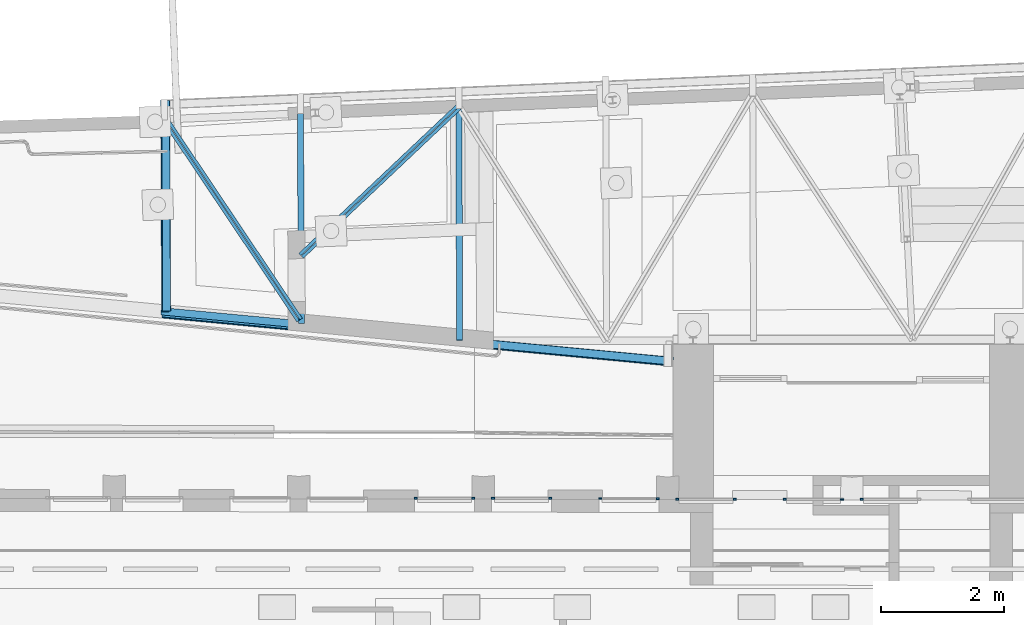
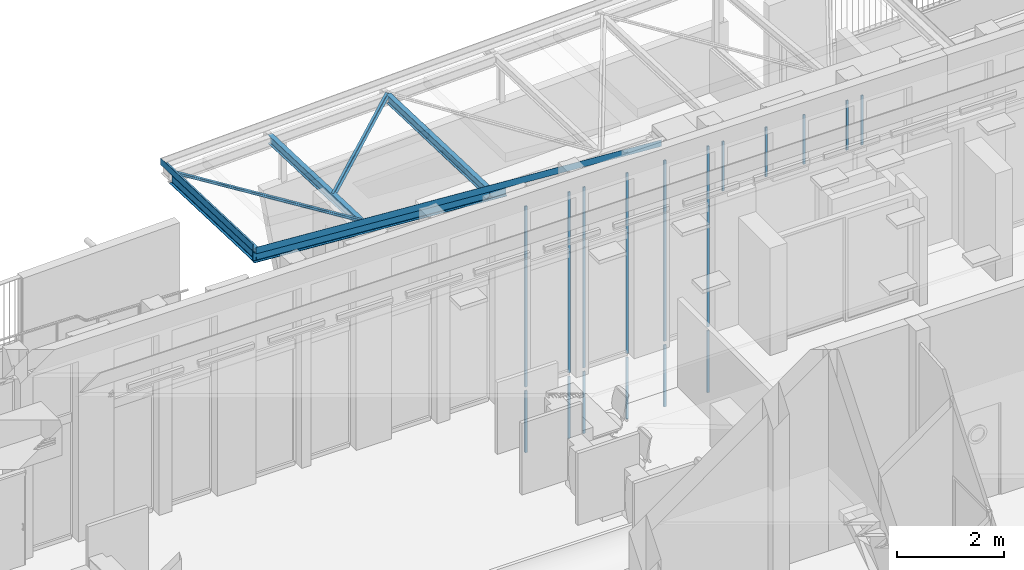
# One storey, part 9 of 128: 23 members, 8 beams, 9 elements without a shape of their own.
"""IFC2X3 building model written with IfcOpenShell, lengths in metres."""

from ifc_helpers import new_model, entity, si_unit, converted_unit, derived_unit, direction, frame, frame_2d, origin, origin_2d_with_axis, place, context, subcontext, project, spatial, polyline, circle_curve, parameter, trimmed, segment, composite_curve, rectangle, i_section, outline, extrude, source, transform, mapped, material, type_object, type_shapes, element, aggregate, save


model = new_model("IFC2X3")

# Units and contexts
model_context = context("Model", 3, precision=1e-05, world=origin(), true_north=direction((6.123031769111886e-17, 1.0)))
body_context = subcontext(model_context, "Body", "Model", "MODEL_VIEW")
ifc_project = project(units=[si_unit("LENGTHUNIT", "METRE"), si_unit("AREAUNIT", "SQUARE_METRE"), converted_unit("PLANEANGLEUNIT", "DEGREE", entity("IfcPlaneAngleMeasure", 0.017453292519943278), si_unit("PLANEANGLEUNIT", "RADIAN"), dimensions=[0, 0, 0, 0, 0, 0, 0]), derived_unit("THERMALTRANSMITTANCEUNIT", [(si_unit("MASSUNIT", "GRAM", prefix="KILO"), 1), (si_unit("THERMODYNAMICTEMPERATUREUNIT", "KELVIN"), -1), (si_unit("TIMEUNIT", "SECOND"), -3)])], contexts=[model_context])

# Site, building, storey
site_placement = place(None, origin())
site = spatial("IfcSite", under=ifc_project, at=site_placement, Name="Default", CompositionType="ELEMENT")
building_placement = place(site_placement, origin())
building = spatial("IfcBuilding", under=site, at=building_placement, CompositionType="ELEMENT")
storey_placement = place(building_placement, origin())
storey = spatial("IfcBuildingStorey", under=building, at=storey_placement, Name="00_RDC CAF", CompositionType="ELEMENT", Elevation=2.4982504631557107e-13)

# Curtain wall, member
curtain_wall_type_1 = type_object("IfcCurtainWallType", Name="Mur-rideau:FRi.Ext.30mm RDC", PredefinedType="NOTDEFINED")
curtain_wall_1_placement = place(storey_placement, origin())
curtain_wall_1 = element("IfcCurtainWall", 1, at=curtain_wall_1_placement, inside=storey, type_object=curtain_wall_type_1, Name="Mur-rideau:FRi.Ext.30mm RDC", ObjectType="Mur-rideau:FRi.Ext.30mm RDC")
ifc_material_1 = material(Name="ARC - M.Ex - Blanc")
member_type_1 = type_object("IfcMemberType", Name="Meneau rectangulaire:F.Ri.M_Ext_Rectangulaire_50x30mm", PredefinedType="MULLION", material=ifc_material_1)
shared_shape_1 = source(origin(), body_context, "Body", "SweptSolid", [
    extrude(rectangle(XDim=0.05, YDim=0.03, at=origin_2d_with_axis()), frame((-0.025, 0.0, -2.7689999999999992), z_axis=(0.0, 0.0, 1.0), x_axis=(-1.0, 0.0, 0.0)), (0.0, 0.0, 1.0), 2.7689999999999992),
])
type_shapes(member_type_1, [shared_shape_1])
member_1_placement = place(curtain_wall_1_placement, frame((21.612390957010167, 144.1601841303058, 0.0), z_axis=(0.0, 0.0, -1.0), x_axis=(1.0, 0.0, 0.0)))
member_1 = element("IfcMember", 2, at=member_1_placement, type_object=member_type_1, material=ifc_material_1, Name="Meneau rectangulaire:F.Ri.M_Ext_Rectangulaire_50x30mm", ObjectType="Meneau rectangulaire:F.Ri.M_Ext_Rectangulaire_50x30mm", context=body_context, shape_type="MappedRepresentation", body=[
    mapped(shared_shape_1, transform((0.0, 0.0, 0.0), scale=1.0)),
])

curtain_wall_2_placement = place(storey_placement, origin())
curtain_wall_2 = element("IfcCurtainWall", 3, at=curtain_wall_2_placement, inside=storey, type_object=curtain_wall_type_1, Name="Mur-rideau:FRi.Ext.30mm RDC", ObjectType="Mur-rideau:FRi.Ext.30mm RDC")
member_2_placement = place(curtain_wall_2_placement, frame((22.86601235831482, 144.1582125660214, 0.0), z_axis=(0.0, 0.0, -1.0), x_axis=(1.0, 0.0, 0.0)))
member_2 = element("IfcMember", 4, at=member_2_placement, type_object=member_type_1, material=ifc_material_1, Name="Meneau rectangulaire:F.Ri.M_Ext_Rectangulaire_50x30mm", ObjectType="Meneau rectangulaire:F.Ri.M_Ext_Rectangulaire_50x30mm", context=body_context, shape_type="MappedRepresentation", body=[
    mapped(shared_shape_1, transform((0.0, 0.0, 0.0), scale=1.0)),
])

curtain_wall_3_placement = place(storey_placement, origin())
curtain_wall_3 = element("IfcCurtainWall", 5, at=curtain_wall_3_placement, inside=storey, type_object=curtain_wall_type_1, Name="Mur-rideau:FRi.Ext.30mm RDC", ObjectType="Mur-rideau:FRi.Ext.30mm RDC")
member_3_placement = place(curtain_wall_3_placement, frame((24.6123843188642, 144.1554660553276, 0.0), z_axis=(0.0, 0.0, -1.0), x_axis=(1.0, 0.0, 0.0)))
member_3 = element("IfcMember", 6, at=member_3_placement, type_object=member_type_1, material=ifc_material_1, Name="Meneau rectangulaire:F.Ri.M_Ext_Rectangulaire_50x30mm", ObjectType="Meneau rectangulaire:F.Ri.M_Ext_Rectangulaire_50x30mm", context=body_context, shape_type="MappedRepresentation", body=[
    mapped(shared_shape_1, transform((0.0, 0.0, 0.0), scale=1.0)),
])

# Member
member_type_2 = type_object("IfcMemberType", Name="Meneau rectangulaire:F.Ri.M_Ext_Rectangulaire_50x30mm", PredefinedType="MULLION", material=ifc_material_1)
shared_shape_2 = source(origin(), body_context, "Body", "SweptSolid", [
    extrude(rectangle(XDim=0.05, YDim=0.03, at=origin_2d_with_axis()), frame((-0.025, 0.0, -1.3589999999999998), z_axis=(0.0, 0.0, 1.0), x_axis=(-1.0, 0.0, 0.0)), (0.0, 0.0, 1.0), 1.3589999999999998),
])
type_shapes(member_type_2, [shared_shape_2])
member_4_placement = place(curtain_wall_1_placement, frame((21.612390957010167, 144.1601841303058, 2.7689999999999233), z_axis=(0.0, 0.0, -1.0), x_axis=(1.0, 0.0, 0.0)))
member_4 = element("IfcMember", 7, at=member_4_placement, type_object=member_type_2, material=ifc_material_1, Name="Meneau rectangulaire:F.Ri.M_Ext_Rectangulaire_50x30mm", ObjectType="Meneau rectangulaire:F.Ri.M_Ext_Rectangulaire_50x30mm", context=body_context, shape_type="MappedRepresentation", body=[
    mapped(shared_shape_2, transform((0.0, 0.0, 0.0), scale=1.0)),
])

member_5_placement = place(curtain_wall_2_placement, frame((22.86601235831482, 144.1582125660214, 2.7689999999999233), z_axis=(0.0, 0.0, -1.0), x_axis=(1.0, 0.0, 0.0)))
member_5 = element("IfcMember", 8, at=member_5_placement, type_object=member_type_2, material=ifc_material_1, Name="Meneau rectangulaire:F.Ri.M_Ext_Rectangulaire_50x30mm", ObjectType="Meneau rectangulaire:F.Ri.M_Ext_Rectangulaire_50x30mm", context=body_context, shape_type="MappedRepresentation", body=[
    mapped(shared_shape_2, transform((0.0, 0.0, 0.0), scale=1.0)),
])

member_6_placement = place(curtain_wall_3_placement, frame((24.6123843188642, 144.1554660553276, 2.7689999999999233), z_axis=(0.0, 0.0, -1.0), x_axis=(1.0, 0.0, 0.0)))
member_6 = element("IfcMember", 9, at=member_6_placement, type_object=member_type_2, material=ifc_material_1, Name="Meneau rectangulaire:F.Ri.M_Ext_Rectangulaire_50x30mm", ObjectType="Meneau rectangulaire:F.Ri.M_Ext_Rectangulaire_50x30mm", context=body_context, shape_type="MappedRepresentation", body=[
    mapped(shared_shape_2, transform((0.0, 0.0, 0.0), scale=1.0)),
])

member_type_3 = type_object("IfcMemberType", Name="Meneau rectangulaire:F.Ri.M_Ext_Rectangulaire_50x30mm", PredefinedType="MULLION", material=ifc_material_1)
shared_shape_3 = source(origin(), body_context, "Body", "SweptSolid", [
    extrude(rectangle(XDim=0.05, YDim=0.03, at=origin_2d_with_axis()), frame((-0.025, 0.0, -1.3589999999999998), z_axis=(0.0, 0.0, 1.0), x_axis=(-1.0, 0.0, 0.0)), (0.0, 0.0, 1.0), 1.3589999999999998),
])
type_shapes(member_type_3, [shared_shape_3])
member_7_placement = place(curtain_wall_1_placement, frame((20.632392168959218, 144.16172536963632, 4.127999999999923), z_axis=(0.0, 0.0, 1.0), x_axis=(-1.0, 0.0, 0.0)))
member_7 = element("IfcMember", 10, at=member_7_placement, type_object=member_type_3, material=ifc_material_1, Name="Meneau rectangulaire:F.Ri.M_Ext_Rectangulaire_50x30mm", ObjectType="Meneau rectangulaire:F.Ri.M_Ext_Rectangulaire_50x30mm", context=body_context, shape_type="MappedRepresentation", body=[
    mapped(shared_shape_3, transform((0.0, 0.0, 0.0), scale=1.0)),
])

member_8_placement = place(curtain_wall_2_placement, frame((21.88601357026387, 144.15975380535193, 4.127999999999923), z_axis=(0.0, 0.0, 1.0), x_axis=(-1.0, 0.0, 0.0)))
member_8 = element("IfcMember", 11, at=member_8_placement, type_object=member_type_3, material=ifc_material_1, Name="Meneau rectangulaire:F.Ri.M_Ext_Rectangulaire_50x30mm", ObjectType="Meneau rectangulaire:F.Ri.M_Ext_Rectangulaire_50x30mm", context=body_context, shape_type="MappedRepresentation", body=[
    mapped(shared_shape_3, transform((0.0, 0.0, 0.0), scale=1.0)),
])

member_9_placement = place(curtain_wall_3_placement, frame((23.632385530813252, 144.15700729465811, 4.127999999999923), z_axis=(0.0, 0.0, 1.0), x_axis=(-1.0, 0.0, 0.0)))
member_9 = element("IfcMember", 12, at=member_9_placement, type_object=member_type_3, material=ifc_material_1, Name="Meneau rectangulaire:F.Ri.M_Ext_Rectangulaire_50x30mm", ObjectType="Meneau rectangulaire:F.Ri.M_Ext_Rectangulaire_50x30mm", context=body_context, shape_type="MappedRepresentation", body=[
    mapped(shared_shape_3, transform((0.0, 0.0, 0.0), scale=1.0)),
])

member_type_4 = type_object("IfcMemberType", Name="Meneau rectangulaire:F.Ri.M_Ext_Rectangulaire_50x30mm", PredefinedType="MULLION", material=ifc_material_1)
shared_shape_4 = source(origin(), body_context, "Body", "SweptSolid", [
    extrude(rectangle(XDim=0.05, YDim=0.03, at=origin_2d_with_axis()), frame((-0.025, 0.0, -2.7689999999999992), z_axis=(0.0, 0.0, 1.0), x_axis=(-1.0, 0.0, 0.0)), (0.0, 0.0, 1.0), 2.7689999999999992),
])
type_shapes(member_type_4, [shared_shape_4])
member_10_placement = place(curtain_wall_1_placement, frame((20.632392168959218, 144.16172536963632, 2.7689999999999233), z_axis=(0.0, 0.0, 1.0), x_axis=(-1.0, 0.0, 0.0)))
member_10 = element("IfcMember", 13, at=member_10_placement, type_object=member_type_4, material=ifc_material_1, Name="Meneau rectangulaire:F.Ri.M_Ext_Rectangulaire_50x30mm", ObjectType="Meneau rectangulaire:F.Ri.M_Ext_Rectangulaire_50x30mm", context=body_context, shape_type="MappedRepresentation", body=[
    mapped(shared_shape_4, transform((0.0, 0.0, 0.0), scale=1.0)),
])

aggregate(curtain_wall_1, [member_1, member_4, member_7, member_10])

member_11_placement = place(curtain_wall_2_placement, frame((21.88601357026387, 144.15975380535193, 2.7689999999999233), z_axis=(0.0, 0.0, 1.0), x_axis=(-1.0, 0.0, 0.0)))
member_11 = element("IfcMember", 14, at=member_11_placement, type_object=member_type_4, material=ifc_material_1, Name="Meneau rectangulaire:F.Ri.M_Ext_Rectangulaire_50x30mm", ObjectType="Meneau rectangulaire:F.Ri.M_Ext_Rectangulaire_50x30mm", context=body_context, shape_type="MappedRepresentation", body=[
    mapped(shared_shape_4, transform((0.0, 0.0, 0.0), scale=1.0)),
])

aggregate(curtain_wall_2, [member_2, member_5, member_8, member_11])

member_12_placement = place(curtain_wall_3_placement, frame((23.632385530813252, 144.15700729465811, 2.7689999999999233), z_axis=(0.0, 0.0, 1.0), x_axis=(-1.0, 0.0, 0.0)))
member_12 = element("IfcMember", 15, at=member_12_placement, type_object=member_type_4, material=ifc_material_1, Name="Meneau rectangulaire:F.Ri.M_Ext_Rectangulaire_50x30mm", ObjectType="Meneau rectangulaire:F.Ri.M_Ext_Rectangulaire_50x30mm", context=body_context, shape_type="MappedRepresentation", body=[
    mapped(shared_shape_4, transform((0.0, 0.0, 0.0), scale=1.0)),
])

aggregate(curtain_wall_3, [member_3, member_6, member_9, member_12])

# Curtain wall, member
curtain_wall_4_placement = place(storey_placement, origin())
curtain_wall_4 = element("IfcCurtainWall", 16, at=curtain_wall_4_placement, inside=storey, type_object=curtain_wall_type_1, Name="Mur-rideau:FRi.Ext.30mm RDC", ObjectType="Mur-rideau:FRi.Ext.30mm RDC")
member_type_5 = type_object("IfcMemberType", Name="Meneau rectangulaire:F.Ri.M_Ext_Rectangulaire_50x30mm", PredefinedType="MULLION", material=ifc_material_1)
shared_shape_5 = source(origin(), body_context, "Body", "SweptSolid", [
    extrude(rectangle(XDim=0.05, YDim=0.03, at=origin_2d_with_axis()), frame((-0.025, 0.0, -1.1279999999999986), z_axis=(0.0, 0.0, 1.0), x_axis=(-1.0, 0.0, 0.0)), (0.0, 0.0, 1.0), 1.1279999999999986),
])
type_shapes(member_type_5, [shared_shape_5])
member_13_placement = place(curtain_wall_4_placement, frame((25.866005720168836, 144.1440583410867, 3.0), z_axis=(0.0, 0.0, -1.0), x_axis=(1.0, 0.0, 0.0)))
member_13 = element("IfcMember", 17, at=member_13_placement, type_object=member_type_5, material=ifc_material_1, Name="Meneau rectangulaire:F.Ri.M_Ext_Rectangulaire_50x30mm", ObjectType="Meneau rectangulaire:F.Ri.M_Ext_Rectangulaire_50x30mm", context=body_context, shape_type="MappedRepresentation", body=[
    mapped(shared_shape_5, transform((0.0, 0.0, 0.0), scale=1.0)),
])

curtain_wall_5_placement = place(storey_placement, origin())
curtain_wall_5 = element("IfcCurtainWall", 18, at=curtain_wall_5_placement, inside=storey, type_object=curtain_wall_type_1, Name="Mur-rideau:FRi.Ext.30mm RDC", ObjectType="Mur-rideau:FRi.Ext.30mm RDC")
member_14_placement = place(curtain_wall_5_placement, frame((27.61237768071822, 144.14131183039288, 3.0), z_axis=(0.0, 0.0, -1.0), x_axis=(1.0, 0.0, 0.0)))
member_14 = element("IfcMember", 19, at=member_14_placement, type_object=member_type_5, material=ifc_material_1, Name="Meneau rectangulaire:F.Ri.M_Ext_Rectangulaire_50x30mm", ObjectType="Meneau rectangulaire:F.Ri.M_Ext_Rectangulaire_50x30mm", context=body_context, shape_type="MappedRepresentation", body=[
    mapped(shared_shape_5, transform((0.0, 0.0, 0.0), scale=1.0)),
])

curtain_wall_6_placement = place(storey_placement, origin())
curtain_wall_6 = element("IfcCurtainWall", 20, at=curtain_wall_6_placement, inside=storey, type_object=curtain_wall_type_1, Name="Mur-rideau:FRi.Ext.30mm RDC", ObjectType="Mur-rideau:FRi.Ext.30mm RDC")
member_type_6 = type_object("IfcMemberType", Name="Meneau rectangulaire:F.Ri.M_Ext_Rectangulaire_50x30mm", PredefinedType="MULLION", material=ifc_material_1)
shared_shape_6 = source(origin(), body_context, "Body", "SweptSolid", [
    extrude(rectangle(XDim=0.05, YDim=0.03, at=origin_2d_with_axis()), frame((-0.025, 0.0, -1.1279999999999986), z_axis=(0.0, 0.0, 1.0), x_axis=(-1.0, 0.0, 0.0)), (0.0, 0.0, 1.0), 1.1279999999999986),
])
type_shapes(member_type_6, [shared_shape_6])
member_15_placement = place(curtain_wall_6_placement, frame((27.886000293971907, 144.1455995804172, 4.127999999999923), z_axis=(0.0, 0.0, 1.0), x_axis=(-1.0, 0.0, 0.0)))
member_15 = element("IfcMember", 21, at=member_15_placement, type_object=member_type_6, material=ifc_material_1, Name="Meneau rectangulaire:F.Ri.M_Ext_Rectangulaire_50x30mm", ObjectType="Meneau rectangulaire:F.Ri.M_Ext_Rectangulaire_50x30mm", context=body_context, shape_type="MappedRepresentation", body=[
    mapped(shared_shape_6, transform((0.0, 0.0, 0.0), scale=1.0)),
])
aggregate(curtain_wall_6, [member_15])

# Member
member_16_placement = place(curtain_wall_4_placement, frame((24.886006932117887, 144.1455995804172, 4.127999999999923), z_axis=(0.0, 0.0, 1.0), x_axis=(-1.0, 0.0, 0.0)))
member_16 = element("IfcMember", 22, at=member_16_placement, type_object=member_type_6, material=ifc_material_1, Name="Meneau rectangulaire:F.Ri.M_Ext_Rectangulaire_50x30mm", ObjectType="Meneau rectangulaire:F.Ri.M_Ext_Rectangulaire_50x30mm", context=body_context, shape_type="MappedRepresentation", body=[
    mapped(shared_shape_6, transform((0.0, 0.0, 0.0), scale=1.0)),
])

aggregate(curtain_wall_4, [member_13, member_16])

member_17_placement = place(curtain_wall_5_placement, frame((26.632378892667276, 144.1428530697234, 4.127999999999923), z_axis=(0.0, 0.0, 1.0), x_axis=(-1.0, 0.0, 0.0)))
member_17 = element("IfcMember", 23, at=member_17_placement, type_object=member_type_6, material=ifc_material_1, Name="Meneau rectangulaire:F.Ri.M_Ext_Rectangulaire_50x30mm", ObjectType="Meneau rectangulaire:F.Ri.M_Ext_Rectangulaire_50x30mm", context=body_context, shape_type="MappedRepresentation", body=[
    mapped(shared_shape_6, transform((0.0, 0.0, 0.0), scale=1.0)),
])

aggregate(curtain_wall_5, [member_14, member_17])

# Curtain wall, members
curtain_wall_type_2 = type_object("IfcCurtainWallType", Name="Mur-rideau:FRi.Ext.30mm Etages", PredefinedType="NOTDEFINED")
curtain_wall_7_placement = place(storey_placement, origin())
curtain_wall_7 = element("IfcCurtainWall", 24, at=curtain_wall_7_placement, inside=storey, type_object=curtain_wall_type_2, Name="Mur-rideau:FRi.Ext.30mm Etages", ObjectType="Mur-rideau:FRi.Ext.30mm Etages")
member_type_7 = type_object("IfcMemberType", Name="Meneau rectangulaire:F.Ri.M_Ext_Rectangulaire_50x30mm", PredefinedType="MULLION", material=ifc_material_1)
shared_shape_7 = source(origin(), body_context, "Body", "SweptSolid", [
    extrude(rectangle(XDim=0.05, YDim=0.03, at=origin_2d_with_axis()), frame((-0.025, 0.0, -1.4129999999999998), z_axis=(0.0, 0.0, 1.0), x_axis=(-1.0, 0.0, 0.0)), (0.0, 0.0, 1.0), 1.4129999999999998),
])
type_shapes(member_type_7, [shared_shape_7])
member_18_placement = place(curtain_wall_7_placement, frame((22.866012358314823, 144.15821256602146, -1.500000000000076), z_axis=(0.0, 0.0, -1.0), x_axis=(1.0, 0.0, 0.0)))
member_18 = element("IfcMember", 25, at=member_18_placement, type_object=member_type_7, material=ifc_material_1, Name="Meneau rectangulaire:F.Ri.M_Ext_Rectangulaire_50x30mm", ObjectType="Meneau rectangulaire:F.Ri.M_Ext_Rectangulaire_50x30mm", context=body_context, shape_type="MappedRepresentation", body=[
    mapped(shared_shape_7, transform((0.0, 0.0, 0.0), scale=1.0)),
])
member_type_8 = type_object("IfcMemberType", Name="Meneau rectangulaire:F.Ri.M_Ext_Rectangulaire_50x30mm", PredefinedType="MULLION", material=ifc_material_1)
shared_shape_8 = source(origin(), body_context, "Body", "SweptSolid", [
    extrude(rectangle(XDim=0.05, YDim=0.03, at=origin_2d_with_axis()), frame((-0.025, 0.0, -1.4129999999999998), z_axis=(0.0, 0.0, 1.0), x_axis=(-1.0, 0.0, 0.0)), (0.0, 0.0, 1.0), 1.4129999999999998),
])
type_shapes(member_type_8, [shared_shape_8])
member_19_placement = place(curtain_wall_7_placement, frame((21.886013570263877, 144.159753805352, -0.087000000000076), z_axis=(0.0, 0.0, 1.0), x_axis=(-1.0, 0.0, 0.0)))
member_19 = element("IfcMember", 26, at=member_19_placement, type_object=member_type_8, material=ifc_material_1, Name="Meneau rectangulaire:F.Ri.M_Ext_Rectangulaire_50x30mm", ObjectType="Meneau rectangulaire:F.Ri.M_Ext_Rectangulaire_50x30mm", context=body_context, shape_type="MappedRepresentation", body=[
    mapped(shared_shape_8, transform((0.0, 0.0, 0.0), scale=1.0)),
])
aggregate(curtain_wall_7, [member_18, member_19])

# Curtain wall, member
curtain_wall_8_placement = place(storey_placement, origin())
curtain_wall_8 = element("IfcCurtainWall", 27, at=curtain_wall_8_placement, inside=storey, type_object=curtain_wall_type_2, Name="Mur-rideau:FRi.Ext.30mm Etages", ObjectType="Mur-rideau:FRi.Ext.30mm Etages")
member_type_9 = type_object("IfcMemberType", Name="Meneau rectangulaire:F.Ri.M_Ext_Rectangulaire_50x30mm", PredefinedType="MULLION", material=ifc_material_1)
shared_shape_9 = source(origin(), body_context, "Body", "SweptSolid", [
    extrude(rectangle(XDim=0.05, YDim=0.03, at=origin_2d_with_axis()), frame((-0.025, 0.0, -1.4129999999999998), z_axis=(0.0, 0.0, 1.0), x_axis=(-1.0, 0.0, 0.0)), (0.0, 0.0, 1.0), 1.4129999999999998),
])
type_shapes(member_type_9, [shared_shape_9])
member_20_placement = place(curtain_wall_8_placement, frame((20.63236628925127, 144.16172541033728, -1.500000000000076), z_axis=(0.0, 0.0, -1.0), x_axis=(-1.0, 0.0, 0.0)))
member_20 = element("IfcMember", 28, at=member_20_placement, type_object=member_type_9, material=ifc_material_1, Name="Meneau rectangulaire:F.Ri.M_Ext_Rectangulaire_50x30mm", ObjectType="Meneau rectangulaire:F.Ri.M_Ext_Rectangulaire_50x30mm", context=body_context, shape_type="MappedRepresentation", body=[
    mapped(shared_shape_9, transform((0.0, 0.0, 0.0), scale=1.0)),
])

curtain_wall_9_placement = place(storey_placement, origin())
curtain_wall_9 = element("IfcCurtainWall", 29, at=curtain_wall_9_placement, inside=storey, type_object=curtain_wall_type_2, Name="Mur-rideau:FRi.Ext.30mm Etages", ObjectType="Mur-rideau:FRi.Ext.30mm Etages")
member_21_placement = place(curtain_wall_9_placement, frame((23.632359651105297, 144.15700733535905, -1.500000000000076), z_axis=(0.0, 0.0, -1.0), x_axis=(-1.0, 0.0, 0.0)))
member_21 = element("IfcMember", 30, at=member_21_placement, type_object=member_type_9, material=ifc_material_1, Name="Meneau rectangulaire:F.Ri.M_Ext_Rectangulaire_50x30mm", ObjectType="Meneau rectangulaire:F.Ri.M_Ext_Rectangulaire_50x30mm", context=body_context, shape_type="MappedRepresentation", body=[
    mapped(shared_shape_9, transform((0.0, 0.0, 0.0), scale=1.0)),
])

# Member
member_type_10 = type_object("IfcMemberType", Name="Meneau rectangulaire:F.Ri.M_Ext_Rectangulaire_50x30mm", PredefinedType="MULLION", material=ifc_material_1)
shared_shape_10 = source(origin(), body_context, "Body", "SweptSolid", [
    extrude(rectangle(XDim=0.05, YDim=0.03, at=origin_2d_with_axis()), frame((-0.025, 0.0, -1.4129999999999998), z_axis=(0.0, 0.0, 1.0), x_axis=(-1.0, 0.0, 0.0)), (0.0, 0.0, 1.0), 1.4129999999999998),
])
type_shapes(member_type_10, [shared_shape_10])
member_22_placement = place(curtain_wall_8_placement, frame((21.61236507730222, 144.16018417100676, -0.087000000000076)))
member_22 = element("IfcMember", 31, at=member_22_placement, type_object=member_type_10, material=ifc_material_1, Name="Meneau rectangulaire:F.Ri.M_Ext_Rectangulaire_50x30mm", ObjectType="Meneau rectangulaire:F.Ri.M_Ext_Rectangulaire_50x30mm", context=body_context, shape_type="MappedRepresentation", body=[
    mapped(shared_shape_10, transform((0.0, 0.0, 0.0), scale=1.0)),
])

aggregate(curtain_wall_8, [member_20, member_22])

member_23_placement = place(curtain_wall_9_placement, frame((24.612358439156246, 144.15546609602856, -0.087000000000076)))
member_23 = element("IfcMember", 32, at=member_23_placement, type_object=member_type_10, material=ifc_material_1, Name="Meneau rectangulaire:F.Ri.M_Ext_Rectangulaire_50x30mm", ObjectType="Meneau rectangulaire:F.Ri.M_Ext_Rectangulaire_50x30mm", context=body_context, shape_type="MappedRepresentation", body=[
    mapped(shared_shape_10, transform((0.0, 0.0, 0.0), scale=1.0)),
])

aggregate(curtain_wall_9, [member_21, member_23])

# Beams
ifc_material_2 = material(Name="Acier structurel - S235")
beam_type_1 = type_object("IfcBeamType", Name="IPE:IPE240", PredefinedType="BEAM")
beam_1_placement = place(storey_placement, frame((16.579216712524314, 147.1966128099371, 2.70348761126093), z_axis=(-0.0029035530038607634, 0.0002743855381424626, 0.9999957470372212), x_axis=(0.9955603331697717, -0.09408037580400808, 0.0029164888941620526)))
element("IfcBeam", 33, at=beam_1_placement, inside=storey, type_object=beam_type_1, material=ifc_material_2, Name="IPE:IPE240", ObjectType="IPE:IPE240", context=body_context, shape_type="SweptSolid", body=[
    extrude(i_section(OverallWidth=0.12000000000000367, OverallDepth=0.23999999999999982, WebThickness=0.006199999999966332, FlangeThickness=0.009800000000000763, FilletRadius=0.015000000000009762, at=frame_2d((1.3530843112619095e-15, 0.0), x_axis=(0.0, 1.0))), frame((-0.06696468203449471, 0.0, -0.12000000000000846), z_axis=(1.0, 0.0, 0.0), x_axis=(0.0, 0.0, -1.0)), (0.0, 0.0, 1.0), 5.209600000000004),
])
beam_2_placement = place(storey_placement, frame((16.579216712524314, 147.1966128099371, 2.70348761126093), z_axis=(-0.00014383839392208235, 0.030982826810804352, 0.9995199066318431), x_axis=(-0.004640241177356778, 0.9995091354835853, -0.03098316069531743)))
element("IfcBeam", 34, at=beam_2_placement, inside=storey, type_object=beam_type_1, material=ifc_material_2, Name="IPE:IPE240", ObjectType="IPE:IPE240", context=body_context, shape_type="SweptSolid", body=[
    extrude(i_section(OverallWidth=0.12000000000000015, OverallDepth=0.23999999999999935, WebThickness=0.006200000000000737, FlangeThickness=0.009800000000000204, FilletRadius=0.014999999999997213, at=frame_2d((8.118505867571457e-16, -2.1649348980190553e-15), x_axis=(0.0, 1.0))), frame((0.0013345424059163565, 0.0, -0.12000000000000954), z_axis=(1.0, 0.0, 0.0), x_axis=(0.0, 0.0, -1.0)), (0.0, 0.0, 1.0), 3.125039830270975),
])
beam_type_2 = type_object("IfcBeamType", Name="IPE:IPE200", PredefinedType="BEAM")
beam_3_placement = place(storey_placement, frame((21.367649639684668, 146.74222493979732, 2.717720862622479), z_axis=(-0.00010302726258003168, 0.031031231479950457, 0.9995184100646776), x_axis=(-0.0033184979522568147, 0.9995129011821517, -0.031031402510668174)))
element("IfcBeam", 35, at=beam_3_placement, inside=storey, type_object=beam_type_2, material=ifc_material_2, Name="IPE:IPE200", ObjectType="IPE:IPE200", context=body_context, shape_type="SweptSolid", body=[
    extrude(i_section(OverallWidth=0.09999999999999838, OverallDepth=0.20000000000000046, WebThickness=0.00560000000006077, FlangeThickness=0.008500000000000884, FilletRadius=0.011999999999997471, at=frame_2d((0.0, 2.1649348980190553e-15), x_axis=(0.0, 1.0))), frame((-0.00965138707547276, 0.0, -0.10000000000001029), z_axis=(1.0, 0.0, 0.0), x_axis=(0.0, 0.0, -1.0)), (0.0, 0.0, 1.0), 3.783300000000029),
])
beam_4_placement = place(storey_placement, frame((18.79416069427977, 147.01575919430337, 2.709094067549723), z_axis=(-0.00014388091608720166, 0.03098444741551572, 0.9995198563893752), x_axis=(-0.004641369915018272, 0.9995090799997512, -0.030984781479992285)))
element("IfcBeam", 36, at=beam_4_placement, inside=storey, type_object=beam_type_2, material=ifc_material_2, Name="IPE:IPE200", ObjectType="IPE:IPE200", context=body_context, shape_type="SweptSolid", body=[
    extrude(i_section(OverallWidth=0.10000000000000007, OverallDepth=0.20000000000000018, WebThickness=0.005600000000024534, FlangeThickness=0.008500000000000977, FilletRadius=0.01200000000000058, at=frame_2d((1.0755285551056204e-15, -2.168404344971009e-15), x_axis=(0.0, 1.0))), frame((-0.0095581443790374, 0.0, -0.10000000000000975), z_axis=(1.0, 0.0, 0.0), x_axis=(0.0, 0.0, -1.0)), (0.0, 0.0, 1.0), 3.4801000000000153),
])
beam_type_3 = type_object("IfcBeamType", Name="LL-Deux cornières:DCED50x5x10", PredefinedType="BEAM", material=ifc_material_2)
shared_shape_11 = source(origin(), body_context, "Body", "SweptSolid", [
    extrude(outline(composite_curve([segment(polyline([(-0.016428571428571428, -0.016428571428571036), (0.03357142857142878, -0.016428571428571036)]), True, "CONTINUOUS"), segment(trimmed(circle_curve(frame_2d((0.02857142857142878, -0.016428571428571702), x_axis=(1.0, 0.0)), 0.005), [parameter(1.6284439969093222e-12)], [parameter(90.00000000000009)], True, "PARAMETER"), True, "CONTINUOUS"), segment(polyline([(0.0285714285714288, -0.0114285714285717), (-0.0064285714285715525, -0.0114285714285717)]), True, "CONTINUOUS"), segment(trimmed(circle_curve(frame_2d((-0.006428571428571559, -0.006428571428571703), x_axis=(1.0, 0.0)), 0.005), [parameter(180.00000000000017)], [parameter(269.9999999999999)], True, "PARAMETER"), False, "CONTINUOUS"), segment(polyline([(-0.01142857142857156, -0.006428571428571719), (-0.01142857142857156, 0.02857142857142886)]), True, "CONTINUOUS"), segment(trimmed(circle_curve(frame_2d((-0.01642857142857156, 0.02857142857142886), x_axis=(1.0, 0.0)), 0.005), [parameter(0.0)], [parameter(89.99999999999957)], True, "PARAMETER"), True, "CONTINUOUS"), segment(polyline([(-0.01642857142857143, 0.033571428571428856), (-0.01642857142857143, -0.016428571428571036)]), True, "CONTINUOUS")], self_intersect=False)), frame((-1.7819999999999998, -0.021428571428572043, -0.0024285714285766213), z_axis=(1.0, 0.0, 0.0), x_axis=(0.0, -1.0, 0.0)), (0.0, 0.0, 1.0), 3.5469999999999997),
    extrude(outline(composite_curve([segment(polyline([(-0.01642857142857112, -0.016428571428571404), (0.03357142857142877, -0.016428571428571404)]), True, "CONTINUOUS"), segment(trimmed(circle_curve(frame_2d((0.028571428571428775, -0.016428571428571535), x_axis=(0.0, 1.0)), 0.005), [parameter(270.00000000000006)], [parameter(359.9999999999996)], True, "PARAMETER"), True, "CONTINUOUS"), segment(polyline([(0.028571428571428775, -0.011428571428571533), (-0.0064285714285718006, -0.011428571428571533)]), True, "CONTINUOUS"), segment(trimmed(circle_curve(frame_2d((-0.006428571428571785, -0.006428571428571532), x_axis=(0.0, 1.0)), 0.005), [parameter(90.00000000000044)], [parameter(180.0000000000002)], True, "PARAMETER"), False, "CONTINUOUS"), segment(polyline([(-0.01142857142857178, -0.006428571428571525), (-0.01142857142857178, 0.02857142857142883)]), True, "CONTINUOUS"), segment(trimmed(circle_curve(frame_2d((-0.016428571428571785, 0.028571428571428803), x_axis=(0.0, 1.0)), 0.005), [parameter(269.9999999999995)], [parameter(359.99999999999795)], True, "PARAMETER"), True, "CONTINUOUS"), segment(polyline([(-0.01642857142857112, 0.0335714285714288), (-0.01642857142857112, -0.016428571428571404)]), True, "CONTINUOUS")], self_intersect=False)), frame((-1.7819999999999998, 0.021428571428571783, -0.0024285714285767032), z_axis=(1.0, 0.0, 0.0), x_axis=(0.0, 0.0, -1.0)), (0.0, 0.0, 1.0), 3.5469999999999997),
])
type_shapes(beam_type_3, [shared_shape_11])
beam_5_placement = place(storey_placement, frame((20.071875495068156, 149.31621082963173, 2.6237624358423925), z_axis=(0.015477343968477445, 0.014620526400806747, 0.9997733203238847), x_axis=(-0.7267772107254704, -0.6865432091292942, 0.0212910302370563)))
element("IfcBeam", 37, at=beam_5_placement, inside=storey, type_object=beam_type_3, material=ifc_material_2, Name="LL-Deux cornières:DCED50x5x10", ObjectType="LL-Deux cornières:DCED50x5x10", context=body_context, shape_type="MappedRepresentation", body=[
    mapped(shared_shape_11, transform((0.0, 0.0, 0.0), scale=1.0)),
])
beam_type_4 = type_object("IfcBeamType", Name="LL-Deux cornières:DCED50x5x10", PredefinedType="BEAM", material=ifc_material_2)
shared_shape_12 = source(origin(), body_context, "Body", "SweptSolid", [
    extrude(outline(composite_curve([segment(polyline([(-0.016428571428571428, -0.016428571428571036), (0.03357142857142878, -0.016428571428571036)]), True, "CONTINUOUS"), segment(trimmed(circle_curve(frame_2d((0.02857142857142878, -0.016428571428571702), x_axis=(1.0, 0.0)), 0.005), [parameter(1.6284439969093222e-12)], [parameter(90.00000000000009)], True, "PARAMETER"), True, "CONTINUOUS"), segment(polyline([(0.0285714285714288, -0.0114285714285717), (-0.0064285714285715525, -0.0114285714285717)]), True, "CONTINUOUS"), segment(trimmed(circle_curve(frame_2d((-0.006428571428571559, -0.006428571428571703), x_axis=(1.0, 0.0)), 0.005), [parameter(180.00000000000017)], [parameter(269.9999999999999)], True, "PARAMETER"), False, "CONTINUOUS"), segment(polyline([(-0.01142857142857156, -0.006428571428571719), (-0.01142857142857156, 0.02857142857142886)]), True, "CONTINUOUS"), segment(trimmed(circle_curve(frame_2d((-0.01642857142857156, 0.02857142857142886), x_axis=(1.0, 0.0)), 0.005), [parameter(0.0)], [parameter(89.99999999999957)], True, "PARAMETER"), True, "CONTINUOUS"), segment(polyline([(-0.01642857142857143, 0.033571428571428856), (-0.01642857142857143, -0.016428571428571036)]), True, "CONTINUOUS")], self_intersect=False)), frame((-1.9889999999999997, -0.021428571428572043, -0.0024285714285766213), z_axis=(1.0, 0.0, 0.0), x_axis=(0.0, -1.0, 0.0)), (0.0, 0.0, 1.0), 3.8789999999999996),
    extrude(outline(composite_curve([segment(polyline([(-0.01642857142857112, -0.016428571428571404), (0.03357142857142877, -0.016428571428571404)]), True, "CONTINUOUS"), segment(trimmed(circle_curve(frame_2d((0.028571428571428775, -0.016428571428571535), x_axis=(0.0, 1.0)), 0.005), [parameter(270.00000000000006)], [parameter(359.9999999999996)], True, "PARAMETER"), True, "CONTINUOUS"), segment(polyline([(0.028571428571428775, -0.011428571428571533), (-0.0064285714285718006, -0.011428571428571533)]), True, "CONTINUOUS"), segment(trimmed(circle_curve(frame_2d((-0.006428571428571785, -0.006428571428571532), x_axis=(0.0, 1.0)), 0.005), [parameter(90.00000000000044)], [parameter(180.0000000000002)], True, "PARAMETER"), False, "CONTINUOUS"), segment(polyline([(-0.01142857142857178, -0.006428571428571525), (-0.01142857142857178, 0.02857142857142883)]), True, "CONTINUOUS"), segment(trimmed(circle_curve(frame_2d((-0.016428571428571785, 0.028571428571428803), x_axis=(0.0, 1.0)), 0.005), [parameter(269.9999999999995)], [parameter(359.99999999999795)], True, "PARAMETER"), True, "CONTINUOUS"), segment(polyline([(-0.01642857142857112, 0.0335714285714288), (-0.01642857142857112, -0.016428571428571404)]), True, "CONTINUOUS")], self_intersect=False)), frame((-1.9889999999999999, 0.021428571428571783, -0.0024285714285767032), z_axis=(1.0, 0.0, 0.0), x_axis=(0.0, 0.0, -1.0)), (0.0, 0.0, 1.0), 3.8789999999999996),
])
type_shapes(beam_type_4, [shared_shape_12])
beam_6_placement = place(storey_placement, frame((17.65876963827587, 148.71002759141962, 2.643495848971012), z_axis=(-0.014825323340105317, 0.022115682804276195, 0.9996454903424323), x_axis=(-0.5566210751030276, 0.8303397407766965, -0.026625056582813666)))
element("IfcBeam", 38, at=beam_6_placement, inside=storey, type_object=beam_type_4, material=ifc_material_2, Name="LL-Deux cornières:DCED50x5x10", ObjectType="LL-Deux cornières:DCED50x5x10", context=body_context, shape_type="MappedRepresentation", body=[
    mapped(shared_shape_12, transform((0.0, 0.0, 0.0), scale=1.0)),
])
beam_type_5 = type_object("IfcBeamType", Name="Cornière à ailes égales:L150x10", PredefinedType="BEAM")
beam_7_placement = place(storey_placement, frame((16.543523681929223, 150.64146995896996, 2.746771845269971), z_axis=(-0.00014383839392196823, 0.030982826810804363, 0.999519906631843), x_axis=(0.0046402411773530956, -0.9995091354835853, 0.03098316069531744)))
element("IfcBeam", 39, at=beam_7_placement, inside=storey, type_object=beam_type_5, material=ifc_material_2, Name="Cornière à ailes égales:L150x10", ObjectType="Cornière à ailes égales:L150x10", context=body_context, shape_type="SweptSolid", body=[
    extrude(outline(composite_curve([segment(polyline([(-0.09555555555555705, -0.05444444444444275), (0.05444444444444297, -0.054444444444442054)]), True, "CONTINUOUS"), segment(polyline([(0.05444444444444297, -0.05444444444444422), (0.054444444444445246, 0.09555555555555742)]), True, "CONTINUOUS"), segment(polyline([(0.0544444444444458, 0.09555555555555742), (0.05244444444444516, 0.09555555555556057)]), True, "CONTINUOUS"), segment(trimmed(circle_curve(frame_2d((0.052444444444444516, 0.08755555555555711), x_axis=(0.0, 1.0)), 0.00799999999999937), [parameter(0.0)], [parameter(90.00000000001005)], True, "PARAMETER"), True, "CONTINUOUS"), segment(polyline([(0.04444444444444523, 0.08755555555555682), (0.04444444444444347, -0.028444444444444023)]), True, "CONTINUOUS"), segment(trimmed(circle_curve(frame_2d((0.028444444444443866, -0.028444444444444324), x_axis=(1.0, 0.0)), 0.01600000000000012), [parameter(270.0000000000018)], [parameter(0.0)], True, "PARAMETER"), False, "CONTINUOUS"), segment(polyline([(0.028444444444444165, -0.044444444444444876), (-0.08755555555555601, -0.04444444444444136)]), True, "CONTINUOUS"), segment(trimmed(circle_curve(frame_2d((-0.08755555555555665, -0.05244444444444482), x_axis=(0.0, 1.0)), 0.00799999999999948), [parameter(0.0)], [parameter(90.00000000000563)], True, "PARAMETER"), True, "CONTINUOUS"), segment(polyline([(-0.09555555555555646, -0.0524444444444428), (-0.09555555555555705, -0.05444444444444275)]), True, "CONTINUOUS")], self_intersect=False)), frame((0.0035158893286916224, 0.014144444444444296, -0.09555555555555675), z_axis=(1.0, 0.0, 0.0), x_axis=(0.0, 0.0, -1.0)), (0.0, 0.0, 1.0), 3.431990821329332),
])
beam_8_placement = place(storey_placement, frame((16.523270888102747, 147.13189232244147, 2.8533435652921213), z_axis=(-0.002903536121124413, 0.00027456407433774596, 0.9999957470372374), x_axis=(0.9955545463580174, -0.09414159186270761, 0.0029164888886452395)))
element("IfcBeam", 40, at=beam_8_placement, inside=storey, type_object=beam_type_5, material=ifc_material_2, Name="Cornière à ailes égales:L150x10", ObjectType="Cornière à ailes égales:L150x10", context=body_context, shape_type="SweptSolid", body=[
    extrude(outline(composite_curve([segment(polyline([(-0.0955555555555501, -0.05444444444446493), (0.05444444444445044, -0.05444444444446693)]), True, "CONTINUOUS"), segment(polyline([(0.054444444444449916, -0.05444444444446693), (0.05444444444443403, 0.09555555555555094)]), True, "CONTINUOUS"), segment(polyline([(0.05444444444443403, 0.09555555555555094), (0.052444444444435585, 0.09555555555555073)]), True, "CONTINUOUS"), segment(trimmed(circle_curve(frame_2d((0.052444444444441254, 0.08755555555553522), x_axis=(0.0, 1.0)), 0.008000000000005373), [parameter(0.0)], [parameter(89.99999999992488)], True, "PARAMETER"), True, "CONTINUOUS"), segment(polyline([(0.04444444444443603, 0.08755555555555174), (0.04444444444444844, -0.028444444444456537)]), True, "CONTINUOUS"), segment(trimmed(circle_curve(frame_2d((0.02844444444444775, -0.028444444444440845), x_axis=(1.0, 0.0)), 0.015999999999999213), [parameter(269.9999999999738)], [parameter(0.0)], True, "PARAMETER"), False, "CONTINUOUS"), segment(polyline([(0.028444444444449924, -0.04444444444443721), (-0.08755555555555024, -0.044444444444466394)]), True, "CONTINUOUS"), segment(trimmed(circle_curve(frame_2d((-0.08755555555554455, -0.052444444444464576), x_axis=(0.0, 1.0)), 0.008000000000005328), [parameter(0.0)], [parameter(89.99999999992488)], True, "PARAMETER"), True, "CONTINUOUS"), segment(polyline([(-0.09555555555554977, -0.05244444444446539), (-0.09555555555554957, -0.05444444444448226)]), True, "CONTINUOUS")], self_intersect=False)), frame((0.0035400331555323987, 0.014144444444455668, -0.09555555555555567), z_axis=(1.0, 0.0, 0.0), x_axis=(0.0, 0.0, -1.0)), (0.0, 0.0, 1.0), 8.346090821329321),
])

save(model, "model.ifc")
